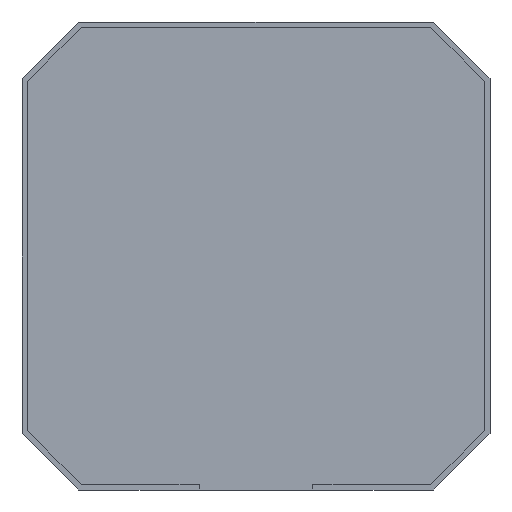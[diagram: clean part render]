
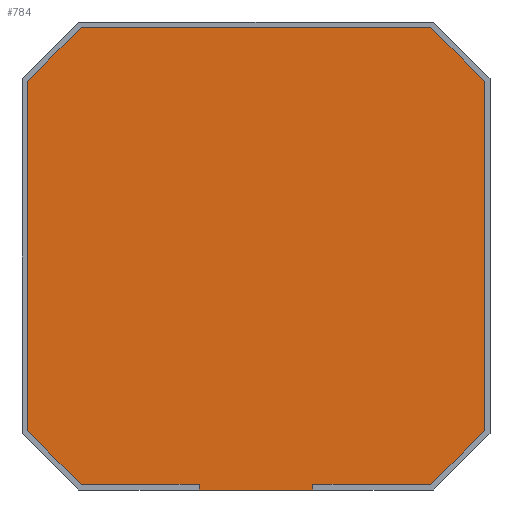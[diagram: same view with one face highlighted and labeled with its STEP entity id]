
A CAD part, front view. The second image highlights one B-rep face of the part: STEP entity #784.
In plain terms, the highlighted planar face has unit normal (0, -1, 0).
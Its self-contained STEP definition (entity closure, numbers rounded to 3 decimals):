
#74=CARTESIAN_POINT('',(15.35,2.88,-24.7));
#75=VERTEX_POINT('',#74);
#226=CARTESIAN_POINT('',(9.35,2.88,-24.7));
#227=VERTEX_POINT('',#226);
#589=CARTESIAN_POINT('',(9.35,2.88,-24.7));
#590=DIRECTION('',(1.,0.,-0.));
#591=VECTOR('',#590,6.);
#592=LINE('',#589,#591);
#593=EDGE_CURVE('',#227,#75,#592,.T.);
#679=CARTESIAN_POINT('',(15.35,2.88,-24.4));
#680=VERTEX_POINT('',#679);
#687=CARTESIAN_POINT('',(15.35,2.88,-24.4));
#688=DIRECTION('',(0.,0.,-1.));
#689=VECTOR('',#688,0.3);
#690=LINE('',#687,#689);
#691=EDGE_CURVE('',#680,#75,#690,.T.);
#697=CARTESIAN_POINT('',(15.35,2.88,-2.62));
#698=DIRECTION('',(0.,1.,0.));
#699=DIRECTION('',(0.,0.,1.));
#700=AXIS2_PLACEMENT_3D('',#697,#698,#699);
#701=PLANE('',#700);
#702=ORIENTED_EDGE('',*,*,#691,.F.);
#703=CARTESIAN_POINT('',(21.576,2.88,-24.4));
#704=VERTEX_POINT('',#703);
#705=CARTESIAN_POINT('',(15.35,2.88,-24.4));
#706=DIRECTION('',(1.,0.,-0.));
#707=VECTOR('',#706,6.226);
#708=LINE('',#705,#707);
#709=EDGE_CURVE('',#680,#704,#708,.T.);
#710=ORIENTED_EDGE('',*,*,#709,.T.);
#711=CARTESIAN_POINT('',(24.4,2.88,-21.576));
#712=VERTEX_POINT('',#711);
#713=CARTESIAN_POINT('',(21.576,2.88,-24.4));
#714=DIRECTION('',(0.707,0.,0.707));
#715=VECTOR('',#714,3.994);
#716=LINE('',#713,#715);
#717=EDGE_CURVE('',#704,#712,#716,.T.);
#718=ORIENTED_EDGE('',*,*,#717,.T.);
#719=CARTESIAN_POINT('',(24.4,2.88,-3.124));
#720=VERTEX_POINT('',#719);
#721=CARTESIAN_POINT('',(24.4,2.88,-21.576));
#722=DIRECTION('',(0.,0.,1.));
#723=VECTOR('',#722,18.451);
#724=LINE('',#721,#723);
#725=EDGE_CURVE('',#712,#720,#724,.T.);
#726=ORIENTED_EDGE('',*,*,#725,.T.);
#727=CARTESIAN_POINT('',(21.576,2.88,-0.3));
#728=VERTEX_POINT('',#727);
#729=CARTESIAN_POINT('',(24.4,2.88,-3.124));
#730=DIRECTION('',(-0.707,0.,0.707));
#731=VECTOR('',#730,3.994);
#732=LINE('',#729,#731);
#733=EDGE_CURVE('',#720,#728,#732,.T.);
#734=ORIENTED_EDGE('',*,*,#733,.T.);
#735=CARTESIAN_POINT('',(3.124,2.88,-0.3));
#736=VERTEX_POINT('',#735);
#737=CARTESIAN_POINT('',(21.576,2.88,-0.3));
#738=DIRECTION('',(-1.,0.,-0.));
#739=VECTOR('',#738,18.451);
#740=LINE('',#737,#739);
#741=EDGE_CURVE('',#728,#736,#740,.T.);
#742=ORIENTED_EDGE('',*,*,#741,.T.);
#743=CARTESIAN_POINT('',(0.3,2.88,-3.124));
#744=VERTEX_POINT('',#743);
#745=CARTESIAN_POINT('',(3.124,2.88,-0.3));
#746=DIRECTION('',(-0.707,0.,-0.707));
#747=VECTOR('',#746,3.994);
#748=LINE('',#745,#747);
#749=EDGE_CURVE('',#736,#744,#748,.T.);
#750=ORIENTED_EDGE('',*,*,#749,.T.);
#751=CARTESIAN_POINT('',(0.3,2.88,-21.576));
#752=VERTEX_POINT('',#751);
#753=CARTESIAN_POINT('',(0.3,2.88,-3.124));
#754=DIRECTION('',(0.,0.,-1.));
#755=VECTOR('',#754,18.451);
#756=LINE('',#753,#755);
#757=EDGE_CURVE('',#744,#752,#756,.T.);
#758=ORIENTED_EDGE('',*,*,#757,.T.);
#759=CARTESIAN_POINT('',(3.124,2.88,-24.4));
#760=VERTEX_POINT('',#759);
#761=CARTESIAN_POINT('',(0.3,2.88,-21.576));
#762=DIRECTION('',(0.707,0.,-0.707));
#763=VECTOR('',#762,3.994);
#764=LINE('',#761,#763);
#765=EDGE_CURVE('',#752,#760,#764,.T.);
#766=ORIENTED_EDGE('',*,*,#765,.T.);
#767=CARTESIAN_POINT('',(9.35,2.88,-24.4));
#768=VERTEX_POINT('',#767);
#769=CARTESIAN_POINT('',(3.124,2.88,-24.4));
#770=DIRECTION('',(1.,0.,-0.));
#771=VECTOR('',#770,6.226);
#772=LINE('',#769,#771);
#773=EDGE_CURVE('',#760,#768,#772,.T.);
#774=ORIENTED_EDGE('',*,*,#773,.T.);
#775=CARTESIAN_POINT('',(9.35,2.88,-24.4));
#776=DIRECTION('',(0.,0.,-1.));
#777=VECTOR('',#776,0.3);
#778=LINE('',#775,#777);
#779=EDGE_CURVE('',#768,#227,#778,.T.);
#780=ORIENTED_EDGE('',*,*,#779,.T.);
#781=ORIENTED_EDGE('',*,*,#593,.T.);
#782=EDGE_LOOP('',(#702,#710,#718,#726,#734,#742,#750,#758,#766,#774,#780,#781));
#783=FACE_BOUND('',#782,.T.);
#784=ADVANCED_FACE('',(#783),#701,.F.);
